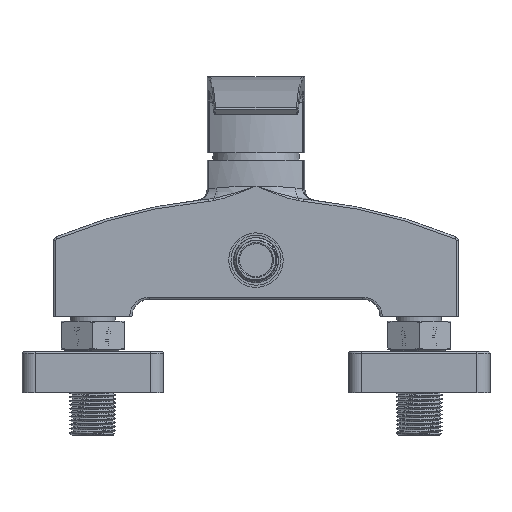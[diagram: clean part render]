
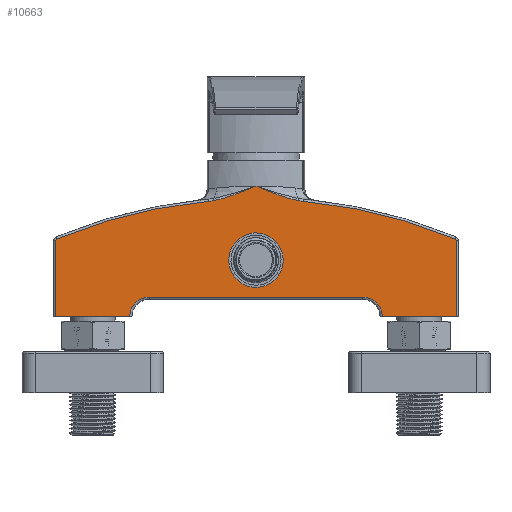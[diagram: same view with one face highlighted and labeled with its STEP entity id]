
A CAD part, front view. The second image highlights one B-rep face of the part: STEP entity #10663.
In plain terms, the highlighted planar face has unit normal (0, -1, 0).
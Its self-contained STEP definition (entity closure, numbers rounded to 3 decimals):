
#178=FACE_BOUND('',#2827,.T.);
#261=ELLIPSE('',#11234,221.565,43.98);
#264=ELLIPSE('',#11270,215.759,43.35);
#972=(
BOUNDED_CURVE()
B_SPLINE_CURVE(3,(#15390,#15391,#15392,#15393,#15394,#15395,#15396,#15397,
#15398,#15399,#15400,#15401,#15402),.UNSPECIFIED.,.F.,.F.)
B_SPLINE_CURVE_WITH_KNOTS((4,1,1,1,1,1,1,1,1,1,4),(0.009,
0.085,0.179,0.283,0.399,0.525,
0.644,0.75,0.845,0.929,1.),
 .UNSPECIFIED.)
CURVE()
GEOMETRIC_REPRESENTATION_ITEM()
RATIONAL_B_SPLINE_CURVE((1.134,1.134,1.134,
1.134,1.134,1.134,1.134,1.134,
1.134,1.134,1.134,1.134,1.134))
REPRESENTATION_ITEM('')
);
#975=(
BOUNDED_CURVE()
B_SPLINE_CURVE(3,(#16112,#16113,#16114,#16115,#16116,#16117,#16118,#16119,
#16120,#16121,#16122,#16123,#16124,#16125),.UNSPECIFIED.,.F.,.F.)
B_SPLINE_CURVE_WITH_KNOTS((4,1,1,1,1,1,1,1,1,1,1,4),(0.,0.071,
0.146,0.226,0.313,0.41,0.518,
0.631,0.737,0.834,0.922,0.991),
 .UNSPECIFIED.)
CURVE()
GEOMETRIC_REPRESENTATION_ITEM()
RATIONAL_B_SPLINE_CURVE((1.134,1.134,1.134,
1.134,1.134,1.134,1.134,1.134,
1.134,1.134,1.134,1.134,1.134,
1.134))
REPRESENTATION_ITEM('')
);
#1095=LINE('',#16436,#1579);
#1097=LINE('',#16484,#1581);
#1098=LINE('',#16489,#1582);
#1099=LINE('',#16493,#1583);
#1100=LINE('',#16494,#1584);
#1579=VECTOR('',#12436,33.999);
#1581=VECTOR('',#12464,34.916);
#1582=VECTOR('',#12469,98.);
#1583=VECTOR('',#12472,33.999);
#1584=VECTOR('',#12473,34.916);
#2264=FACE_OUTER_BOUND('',#2826,.T.);
#2826=EDGE_LOOP('',(#7106,#7107,#7108,#7109,#7110,#7111,#7112,#7113,#7114,
#7115,#7116,#7117,#7118,#7119,#7120));
#2827=EDGE_LOOP('',(#7121,#7122));
#3405=CIRCLE('',#11230,12.5);
#3406=CIRCLE('',#11231,12.5);
#3429=CIRCLE('',#11264,1.);
#3432=CIRCLE('',#11268,239.);
#3452=CIRCLE('',#11297,1.);
#3454=CIRCLE('',#11300,239.);
#3455=CIRCLE('',#11303,9.);
#3456=CIRCLE('',#11304,9.);
#3898=VERTEX_POINT('',#14850);
#3916=VERTEX_POINT('',#15324);
#3917=VERTEX_POINT('',#15326);
#3918=VERTEX_POINT('',#15389);
#3920=VERTEX_POINT('',#15435);
#3942=VERTEX_POINT('',#15740);
#3943=VERTEX_POINT('',#15742);
#3944=VERTEX_POINT('',#15746);
#3946=VERTEX_POINT('',#15780);
#3958=VERTEX_POINT('',#16433);
#3959=VERTEX_POINT('',#16435);
#3961=VERTEX_POINT('',#16476);
#3962=VERTEX_POINT('',#16478);
#3963=VERTEX_POINT('',#16486);
#3964=VERTEX_POINT('',#16488);
#3965=VERTEX_POINT('',#16490);
#3966=VERTEX_POINT('',#16492);
#5176=EDGE_CURVE('',#3916,#3917,#3405,.T.);
#5177=EDGE_CURVE('',#3917,#3916,#3406,.T.);
#5178=EDGE_CURVE('',#3918,#3898,#972,.T.);
#5182=EDGE_CURVE('',#3920,#3918,#261,.T.);
#5215=EDGE_CURVE('',#3943,#3942,#3429,.T.);
#5218=EDGE_CURVE('',#3942,#3944,#3432,.T.);
#5221=EDGE_CURVE('',#3946,#3944,#264,.T.);
#5229=EDGE_CURVE('',#3898,#3946,#975,.T.);
#5248=EDGE_CURVE('',#3958,#3959,#1095,.T.);
#5256=EDGE_CURVE('',#3962,#3961,#3452,.T.);
#5258=EDGE_CURVE('',#3920,#3962,#3454,.T.);
#5259=EDGE_CURVE('',#3961,#3959,#1097,.T.);
#5260=EDGE_CURVE('',#3958,#3963,#3455,.T.);
#5261=EDGE_CURVE('',#3963,#3964,#1098,.T.);
#5262=EDGE_CURVE('',#3964,#3965,#3456,.T.);
#5263=EDGE_CURVE('',#3965,#3966,#1099,.T.);
#5264=EDGE_CURVE('',#3966,#3943,#1100,.T.);
#7106=ORIENTED_EDGE('',*,*,#5178,.F.);
#7107=ORIENTED_EDGE('',*,*,#5182,.F.);
#7108=ORIENTED_EDGE('',*,*,#5258,.T.);
#7109=ORIENTED_EDGE('',*,*,#5256,.T.);
#7110=ORIENTED_EDGE('',*,*,#5259,.T.);
#7111=ORIENTED_EDGE('',*,*,#5248,.F.);
#7112=ORIENTED_EDGE('',*,*,#5260,.T.);
#7113=ORIENTED_EDGE('',*,*,#5261,.T.);
#7114=ORIENTED_EDGE('',*,*,#5262,.T.);
#7115=ORIENTED_EDGE('',*,*,#5263,.T.);
#7116=ORIENTED_EDGE('',*,*,#5264,.T.);
#7117=ORIENTED_EDGE('',*,*,#5215,.T.);
#7118=ORIENTED_EDGE('',*,*,#5218,.T.);
#7119=ORIENTED_EDGE('',*,*,#5221,.F.);
#7120=ORIENTED_EDGE('',*,*,#5229,.F.);
#7121=ORIENTED_EDGE('',*,*,#5177,.F.);
#7122=ORIENTED_EDGE('',*,*,#5176,.F.);
#10429=PLANE('',#11302);
#10663=ADVANCED_FACE('',(#2264,#178),#10429,.T.);
#11230=AXIS2_PLACEMENT_3D('',#15327,#12307,#12308);
#11231=AXIS2_PLACEMENT_3D('',#15328,#12309,#12310);
#11234=AXIS2_PLACEMENT_3D('',#15437,#12315,#12316);
#11264=AXIS2_PLACEMENT_3D('',#15743,#12380,#12381);
#11268=AXIS2_PLACEMENT_3D('',#15748,#12388,#12389);
#11270=AXIS2_PLACEMENT_3D('',#15782,#12392,#12393);
#11297=AXIS2_PLACEMENT_3D('',#16479,#12454,#12455);
#11300=AXIS2_PLACEMENT_3D('',#16482,#12460,#12461);
#11302=AXIS2_PLACEMENT_3D('',#16485,#12465,#12466);
#11303=AXIS2_PLACEMENT_3D('',#16487,#12467,#12468);
#11304=AXIS2_PLACEMENT_3D('',#16491,#12470,#12471);
#12307=DIRECTION('center_axis',(0.,-1.,0.));
#12308=DIRECTION('ref_axis',(0.,0.,1.));
#12309=DIRECTION('center_axis',(0.,-1.,0.));
#12310=DIRECTION('ref_axis',(0.,0.,1.));
#12315=DIRECTION('center_axis',(0.,-1.,
0.));
#12316=DIRECTION('ref_axis',(0.665,0.,0.747));
#12380=DIRECTION('center_axis',(0.,-1.,0.));
#12381=DIRECTION('ref_axis',(1.,0.,0.));
#12388=DIRECTION('center_axis',(0.,-1.,0.));
#12389=DIRECTION('ref_axis',(0.382,0.,0.924));
#12392=DIRECTION('center_axis',(0.,-1.,
0.));
#12393=DIRECTION('ref_axis',(-0.666,0.,0.746));
#12436=DIRECTION('',(-1.,0.,0.));
#12454=DIRECTION('center_axis',(0.,-1.,0.));
#12455=DIRECTION('ref_axis',(-0.382,0.,0.924));
#12460=DIRECTION('center_axis',(0.,-1.,0.));
#12461=DIRECTION('ref_axis',(-0.092,0.,0.996));
#12464=DIRECTION('',(0.,0.,-1.));
#12465=DIRECTION('center_axis',(0.,-1.,0.));
#12466=DIRECTION('ref_axis',(1.,0.,0.));
#12467=DIRECTION('center_axis',(0.,1.,0.));
#12468=DIRECTION('ref_axis',(-1.,0.,0.));
#12469=DIRECTION('',(1.,0.,0.));
#12470=DIRECTION('center_axis',(0.,1.,0.));
#12471=DIRECTION('ref_axis',(0.,0.,1.));
#12472=DIRECTION('',(1.,0.,0.));
#12473=DIRECTION('',(0.,0.,1.));
#14850=CARTESIAN_POINT('',(-22.,0.,52.));
#15324=CARTESIAN_POINT('',(-22.785,0.,30.475));
#15326=CARTESIAN_POINT('',(-22.,0.,30.5));
#15327=CARTESIAN_POINT('Origin',(-22.,0.,18.));
#15328=CARTESIAN_POINT('Origin',(-22.,0.,18.));
#15389=CARTESIAN_POINT('',(-41.608,0.,45.301));
#15390=CARTESIAN_POINT('Ctrl Pts',(-41.608,0.,
45.301));
#15391=CARTESIAN_POINT('Ctrl Pts',(-41.078,0.,
45.393));
#15392=CARTESIAN_POINT('Ctrl Pts',(-39.907,0.,
45.625));
#15393=CARTESIAN_POINT('Ctrl Pts',(-38.042,0.,
46.083));
#15394=CARTESIAN_POINT('Ctrl Pts',(-35.935,0.,
46.697));
#15395=CARTESIAN_POINT('Ctrl Pts',(-33.637,0.,
47.459));
#15396=CARTESIAN_POINT('Ctrl Pts',(-31.271,0.,
48.323));
#15397=CARTESIAN_POINT('Ctrl Pts',(-28.986,0.,
49.208));
#15398=CARTESIAN_POINT('Ctrl Pts',(-26.914,0.,
50.035));
#15399=CARTESIAN_POINT('Ctrl Pts',(-25.074,0.,
50.776));
#15400=CARTESIAN_POINT('Ctrl Pts',(-23.462,0.,
51.422));
#15401=CARTESIAN_POINT('Ctrl Pts',(-22.462,0.,
51.819));
#15402=CARTESIAN_POINT('Ctrl Pts',(-22.,0.,
52.));
#15435=CARTESIAN_POINT('',(-43.9,0.,44.995));
#15437=CARTESIAN_POINT('Origin',(93.412,-0.003,212.924));
#15740=CARTESIAN_POINT('',(69.382,0.,27.84));
#15742=CARTESIAN_POINT('',(70.,0.,26.916));
#15743=CARTESIAN_POINT('Origin',(69.,0.,26.916));
#15746=CARTESIAN_POINT('',(-0.1,0.,44.995));
#15748=CARTESIAN_POINT('Origin',(-22.,0.,-193.));
#15780=CARTESIAN_POINT('',(-2.392,0.,45.301));
#15782=CARTESIAN_POINT('Origin',(-133.762,-0.002,208.403));
#16112=CARTESIAN_POINT('Ctrl Pts',(-22.,0.,
52.));
#16113=CARTESIAN_POINT('Ctrl Pts',(-21.54,0.,
51.819));
#16114=CARTESIAN_POINT('Ctrl Pts',(-20.597,0.,
51.446));
#16115=CARTESIAN_POINT('Ctrl Pts',(-19.139,0.,
50.861));
#16116=CARTESIAN_POINT('Ctrl Pts',(-17.575,0.,
50.232));
#16117=CARTESIAN_POINT('Ctrl Pts',(-15.867,0.,
49.547));
#16118=CARTESIAN_POINT('Ctrl Pts',(-13.972,0.,
48.801));
#16119=CARTESIAN_POINT('Ctrl Pts',(-11.898,0.,
48.014));
#16120=CARTESIAN_POINT('Ctrl Pts',(-9.746,0.,
47.248));
#16121=CARTESIAN_POINT('Ctrl Pts',(-7.641,0.,
46.568));
#16122=CARTESIAN_POINT('Ctrl Pts',(-5.68,0.,
46.011));
#16123=CARTESIAN_POINT('Ctrl Pts',(-3.948,0.,
45.595));
#16124=CARTESIAN_POINT('Ctrl Pts',(-2.869,0.,
45.384));
#16125=CARTESIAN_POINT('Ctrl Pts',(-2.392,0.,
45.301));
#16433=CARTESIAN_POINT('',(-80.,0.,-8.));
#16435=CARTESIAN_POINT('',(-114.,0.,-8.));
#16436=CARTESIAN_POINT('',(-80.001,0.,-8.));
#16476=CARTESIAN_POINT('',(-114.,0.,26.916));
#16478=CARTESIAN_POINT('',(-113.382,0.,27.84));
#16479=CARTESIAN_POINT('Origin',(-113.,0.,26.916));
#16482=CARTESIAN_POINT('Origin',(-22.,0.,-193.));
#16484=CARTESIAN_POINT('',(-114.,0.,26.916));
#16485=CARTESIAN_POINT('Origin',(73.68,0.,22.));
#16486=CARTESIAN_POINT('',(-71.,0.,1.));
#16487=CARTESIAN_POINT('Origin',(-71.,0.,-8.));
#16488=CARTESIAN_POINT('',(27.,0.,1.));
#16489=CARTESIAN_POINT('',(-71.,0.,1.));
#16490=CARTESIAN_POINT('',(36.,0.,-8.));
#16491=CARTESIAN_POINT('Origin',(27.,0.,-8.));
#16492=CARTESIAN_POINT('',(70.,0.,-8.));
#16493=CARTESIAN_POINT('',(36.001,0.,-8.));
#16494=CARTESIAN_POINT('',(70.,0.,-8.));
